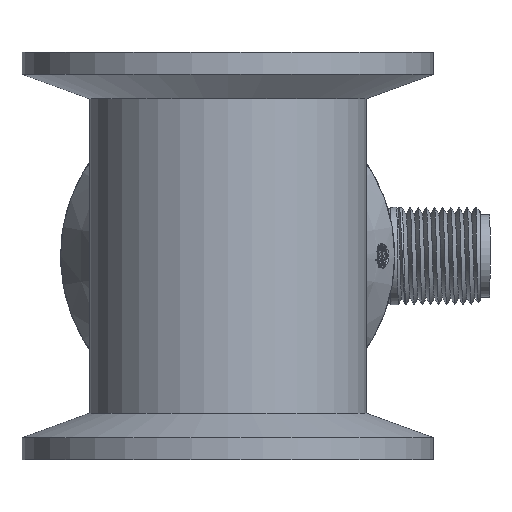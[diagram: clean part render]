
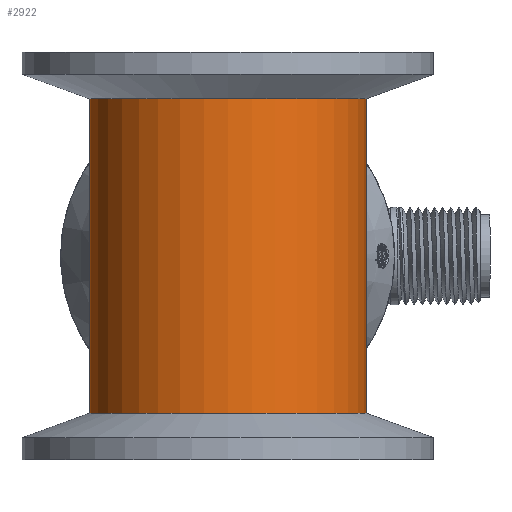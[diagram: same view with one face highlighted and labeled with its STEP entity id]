
A CAD part, front view. The second image highlights one B-rep face of the part: STEP entity #2922.
In plain terms, the highlighted cylindrical face has radius 17 mm (diameter 34 mm), a full revolution.
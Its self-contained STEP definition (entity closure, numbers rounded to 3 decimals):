
#1652=CYLINDRICAL_SURFACE('',#8485,17.);
#1795=LINE('',#11322,#2171);
#1796=LINE('',#11324,#2172);
#1797=LINE('',#11337,#2173);
#2171=VECTOR('',#9298,1.);
#2172=VECTOR('',#9299,1.);
#2173=VECTOR('',#9300,1.);
#2708=FACE_BOUND('',#3772,.T.);
#2709=FACE_BOUND('',#3773,.T.);
#2710=FACE_BOUND('',#3774,.T.);
#2922=ADVANCED_FACE('',(#2708,#2709,#2710),#1652,.T.);
#3772=EDGE_LOOP('',(#4733,#4734,#4735,#4736,#4737,#4738));
#3773=EDGE_LOOP('',(#4739));
#3774=EDGE_LOOP('',(#4740));
#4338=CIRCLE('',#8483,17.);
#4339=CIRCLE('',#8484,17.);
#4733=ORIENTED_EDGE('',*,*,#7315,.F.);
#4734=ORIENTED_EDGE('',*,*,#7297,.T.);
#4735=ORIENTED_EDGE('',*,*,#7316,.F.);
#4736=ORIENTED_EDGE('',*,*,#7317,.F.);
#4737=ORIENTED_EDGE('',*,*,#7318,.F.);
#4738=ORIENTED_EDGE('',*,*,#7319,.F.);
#4739=ORIENTED_EDGE('',*,*,#7320,.T.);
#4740=ORIENTED_EDGE('',*,*,#7321,.T.);
#6655=VERTEX_POINT('',#11241);
#6656=VERTEX_POINT('',#11246);
#6673=VERTEX_POINT('',#11323);
#6674=VERTEX_POINT('',#11325);
#6675=VERTEX_POINT('',#11336);
#6676=VERTEX_POINT('',#11338);
#6677=VERTEX_POINT('',#11350);
#6678=VERTEX_POINT('',#11352);
#7297=EDGE_CURVE('',#6656,#6655,#8266,.T.);
#7315=EDGE_CURVE('',#6656,#6673,#1795,.T.);
#7316=EDGE_CURVE('',#6674,#6655,#1796,.T.);
#7317=EDGE_CURVE('',#6675,#6674,#8272,.T.);
#7318=EDGE_CURVE('',#6676,#6675,#1797,.T.);
#7319=EDGE_CURVE('',#6673,#6676,#8273,.T.);
#7320=EDGE_CURVE('',#6677,#6677,#4338,.T.);
#7321=EDGE_CURVE('',#6678,#6678,#4339,.T.);
#8266=B_SPLINE_CURVE_WITH_KNOTS('',3,(#11242,#11243,#11244,#11245),
 .UNSPECIFIED.,.F.,.F.,(4,4),(0.,1.),.UNSPECIFIED.);
#8272=B_SPLINE_CURVE_WITH_KNOTS('',3,(#11326,#11327,#11328,#11329,#11330,
#11331,#11332,#11333,#11334,#11335),.UNSPECIFIED.,.F.,.F.,(4,2,2,2,4),(0.,
0.25,0.5,0.75,1.),.UNSPECIFIED.);
#8273=B_SPLINE_CURVE_WITH_KNOTS('',3,(#11339,#11340,#11341,#11342,#11343,
#11344,#11345,#11346,#11347,#11348),.UNSPECIFIED.,.F.,.F.,(4,2,2,2,4),(0.,
0.25,0.5,0.75,1.),.UNSPECIFIED.);
#8483=AXIS2_PLACEMENT_3D('',#11349,#9301,#9302);
#8484=AXIS2_PLACEMENT_3D('',#11351,#9303,#9304);
#8485=AXIS2_PLACEMENT_3D('',#11353,#9305,#9306);
#9298=DIRECTION('',(0.,0.,1.));
#9299=DIRECTION('',(0.,0.,1.));
#9300=DIRECTION('',(0.,0.,-1.));
#9301=DIRECTION('',(0.,0.,1.));
#9302=DIRECTION('',(-1.,0.,0.));
#9303=DIRECTION('',(0.,0.,-1.));
#9304=DIRECTION('',(1.,0.,0.));
#9305=DIRECTION('',(0.,0.,-1.));
#9306=DIRECTION('',(1.,0.,0.));
#11241=CARTESIAN_POINT('',(-8.,15.,-8.5));
#11242=CARTESIAN_POINT('',(-8.,15.,-7.5));
#11243=CARTESIAN_POINT('',(-8.014,14.993,-7.833));
#11244=CARTESIAN_POINT('',(-8.014,14.993,-8.167));
#11245=CARTESIAN_POINT('',(-8.,15.,-8.5));
#11246=CARTESIAN_POINT('',(-8.,15.,-7.5));
#11322=CARTESIAN_POINT('',(-8.,15.,48.5));
#11323=CARTESIAN_POINT('',(-8.,15.,0.897));
#11324=CARTESIAN_POINT('',(-8.,15.,48.5));
#11325=CARTESIAN_POINT('',(-8.,15.,-16.897));
#11326=CARTESIAN_POINT('',(8.,15.,-16.868));
#11327=CARTESIAN_POINT('',(7.03,15.517,-17.998));
#11328=CARTESIAN_POINT('',(5.883,16.013,-18.926));
#11329=CARTESIAN_POINT('',(3.139,16.768,-20.291));
#11330=CARTESIAN_POINT('',(1.587,16.997,-20.675));
#11331=CARTESIAN_POINT('',(-1.528,17.003,-20.688));
#11332=CARTESIAN_POINT('',(-3.095,16.777,-20.313));
#11333=CARTESIAN_POINT('',(-5.845,16.027,-18.969));
#11334=CARTESIAN_POINT('',(-7.025,15.52,-18.026));
#11335=CARTESIAN_POINT('',(-8.,15.,-16.897));
#11336=CARTESIAN_POINT('',(8.,15.,-16.868));
#11337=CARTESIAN_POINT('',(8.,15.,48.5));
#11338=CARTESIAN_POINT('',(8.,15.,0.868));
#11339=CARTESIAN_POINT('',(-8.,15.,0.897));
#11340=CARTESIAN_POINT('',(-7.027,15.519,2.023));
#11341=CARTESIAN_POINT('',(-5.877,16.015,2.947));
#11342=CARTESIAN_POINT('',(-3.128,16.77,4.303));
#11343=CARTESIAN_POINT('',(-1.575,16.998,4.681));
#11344=CARTESIAN_POINT('',(1.541,17.002,4.683));
#11345=CARTESIAN_POINT('',(3.106,16.774,4.302));
#11346=CARTESIAN_POINT('',(5.851,16.025,2.948));
#11347=CARTESIAN_POINT('',(7.028,15.518,2.001));
#11348=CARTESIAN_POINT('',(8.,15.,0.868));
#11349=CARTESIAN_POINT('',(0.,0.,-27.297));
#11350=CARTESIAN_POINT('',(-17.,0.,-27.297));
#11351=CARTESIAN_POINT('',(0.,0.,11.297));
#11352=CARTESIAN_POINT('',(17.,0.,11.297));
#11353=CARTESIAN_POINT('',(0.,0.,48.5));
